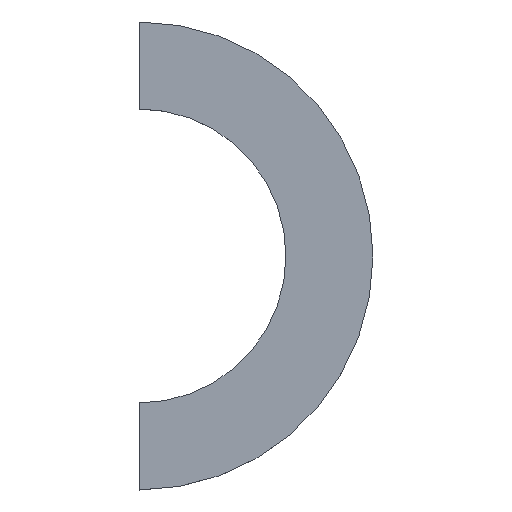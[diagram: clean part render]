
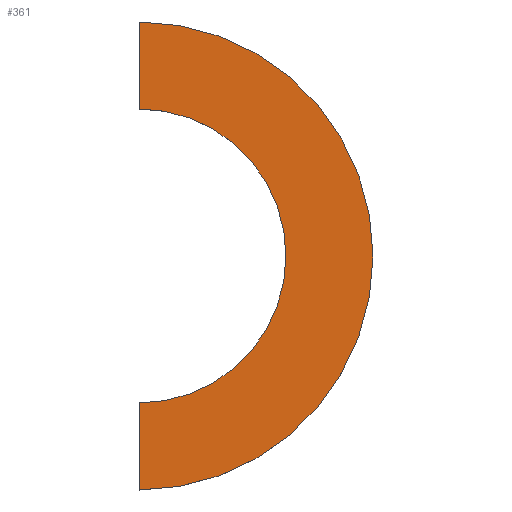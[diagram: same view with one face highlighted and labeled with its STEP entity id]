
A CAD part, top view. The second image highlights one B-rep face of the part: STEP entity #361.
In plain terms, the highlighted planar face has unit normal (0, 0, 1).
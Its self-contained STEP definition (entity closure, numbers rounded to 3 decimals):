
#24 = VERTEX_POINT('',#25);
#25 = CARTESIAN_POINT('',(4.8,0.,9.4));
#32 = CYLINDRICAL_SURFACE('',#33,4.8);
#33 = AXIS2_PLACEMENT_3D('',#34,#35,#36);
#34 = CARTESIAN_POINT('',(0.,0.,9.));
#35 = DIRECTION('',(0.,0.,1.));
#36 = DIRECTION('',(1.,0.,-0.));
#44 = CYLINDRICAL_SURFACE('',#45,4.8);
#45 = AXIS2_PLACEMENT_3D('',#46,#47,#48);
#46 = CARTESIAN_POINT('',(0.,0.,9.));
#47 = DIRECTION('',(0.,0.,1.));
#48 = DIRECTION('',(1.,0.,-0.));
#56 = EDGE_CURVE('',#57,#24,#59,.T.);
#57 = VERTEX_POINT('',#58);
#58 = CARTESIAN_POINT('',(0.,-4.8,9.4));
#59 = SURFACE_CURVE('',#60,(#65,#72),.PCURVE_S1.);
#60 = CIRCLE('',#61,4.8);
#61 = AXIS2_PLACEMENT_3D('',#62,#63,#64);
#62 = CARTESIAN_POINT('',(0.,0.,9.4));
#63 = DIRECTION('',(0.,0.,1.));
#64 = DIRECTION('',(1.,0.,-0.));
#65 = PCURVE('',#32,#66);
#66 = DEFINITIONAL_REPRESENTATION('',(#67),#71);
#67 = LINE('',#68,#69);
#68 = CARTESIAN_POINT('',(0.,0.4));
#69 = VECTOR('',#70,1.);
#70 = DIRECTION('',(1.,0.));
#71 = ( GEOMETRIC_REPRESENTATION_CONTEXT(2) 
PARAMETRIC_REPRESENTATION_CONTEXT() REPRESENTATION_CONTEXT('2D SPACE',''
  ) );
#72 = PCURVE('',#73,#78);
#73 = PLANE('',#74);
#74 = AXIS2_PLACEMENT_3D('',#75,#76,#77);
#75 = CARTESIAN_POINT('',(0.,0.,9.4));
#76 = DIRECTION('',(0.,0.,1.));
#77 = DIRECTION('',(1.,0.,-0.));
#78 = DEFINITIONAL_REPRESENTATION('',(#79),#83);
#79 = CIRCLE('',#80,4.8);
#80 = AXIS2_PLACEMENT_2D('',#81,#82);
#81 = CARTESIAN_POINT('',(0.,0.));
#82 = DIRECTION('',(1.,0.));
#83 = ( GEOMETRIC_REPRESENTATION_CONTEXT(2) 
PARAMETRIC_REPRESENTATION_CONTEXT() REPRESENTATION_CONTEXT('2D SPACE',''
  ) );
#100 = PLANE('',#101);
#101 = AXIS2_PLACEMENT_3D('',#102,#103,#104);
#102 = CARTESIAN_POINT('',(0.,-60.,-70.));
#103 = DIRECTION('',(1.,0.,0.));
#104 = DIRECTION('',(0.,0.,1.));
#141 = EDGE_CURVE('',#24,#142,#144,.T.);
#142 = VERTEX_POINT('',#143);
#143 = CARTESIAN_POINT('',(0.,4.8,9.4));
#144 = SURFACE_CURVE('',#145,(#150,#157),.PCURVE_S1.);
#145 = CIRCLE('',#146,4.8);
#146 = AXIS2_PLACEMENT_3D('',#147,#148,#149);
#147 = CARTESIAN_POINT('',(0.,0.,9.4));
#148 = DIRECTION('',(0.,0.,1.));
#149 = DIRECTION('',(1.,0.,-0.));
#150 = PCURVE('',#44,#151);
#151 = DEFINITIONAL_REPRESENTATION('',(#152),#156);
#152 = LINE('',#153,#154);
#153 = CARTESIAN_POINT('',(0.,0.4));
#154 = VECTOR('',#155,1.);
#155 = DIRECTION('',(1.,0.));
#156 = ( GEOMETRIC_REPRESENTATION_CONTEXT(2) 
PARAMETRIC_REPRESENTATION_CONTEXT() REPRESENTATION_CONTEXT('2D SPACE',''
  ) );
#157 = PCURVE('',#73,#158);
#158 = DEFINITIONAL_REPRESENTATION('',(#159),#163);
#159 = CIRCLE('',#160,4.8);
#160 = AXIS2_PLACEMENT_2D('',#161,#162);
#161 = CARTESIAN_POINT('',(0.,0.));
#162 = DIRECTION('',(1.,0.));
#163 = ( GEOMETRIC_REPRESENTATION_CONTEXT(2) 
PARAMETRIC_REPRESENTATION_CONTEXT() REPRESENTATION_CONTEXT('2D SPACE',''
  ) );
#203 = PLANE('',#204);
#204 = AXIS2_PLACEMENT_3D('',#205,#206,#207);
#205 = CARTESIAN_POINT('',(0.,-60.,-70.));
#206 = DIRECTION('',(1.,0.,0.));
#207 = DIRECTION('',(0.,0.,1.));
#257 = CYLINDRICAL_SURFACE('',#258,3.015);
#258 = AXIS2_PLACEMENT_3D('',#259,#260,#261);
#259 = CARTESIAN_POINT('',(0.,0.,8.99));
#260 = DIRECTION('',(0.,0.,1.));
#261 = DIRECTION('',(1.,0.,-0.));
#286 = CYLINDRICAL_SURFACE('',#287,3.015);
#287 = AXIS2_PLACEMENT_3D('',#288,#289,#290);
#288 = CARTESIAN_POINT('',(0.,0.,8.99));
#289 = DIRECTION('',(0.,0.,1.));
#290 = DIRECTION('',(1.,0.,-0.));
#323 = VERTEX_POINT('',#324);
#324 = CARTESIAN_POINT('',(0.,-3.015,9.4));
#343 = EDGE_CURVE('',#57,#323,#344,.T.);
#344 = SURFACE_CURVE('',#345,(#349,#355),.PCURVE_S1.);
#345 = LINE('',#346,#347);
#346 = CARTESIAN_POINT('',(0.,-30.,9.4));
#347 = VECTOR('',#348,1.);
#348 = DIRECTION('',(0.,1.,0.));
#349 = PCURVE('',#100,#350);
#350 = DEFINITIONAL_REPRESENTATION('',(#351),#354);
#351 = B_SPLINE_CURVE_WITH_KNOTS('',1,(#352,#353),.UNSPECIFIED.,.F.,.F.,
  (2,2),(25.2,34.8),.PIECEWISE_BEZIER_KNOTS.);
#352 = CARTESIAN_POINT('',(79.4,-55.2));
#353 = CARTESIAN_POINT('',(79.4,-64.8));
#354 = ( GEOMETRIC_REPRESENTATION_CONTEXT(2) 
PARAMETRIC_REPRESENTATION_CONTEXT() REPRESENTATION_CONTEXT('2D SPACE',''
  ) );
#355 = PCURVE('',#73,#356);
#356 = DEFINITIONAL_REPRESENTATION('',(#357),#360);
#357 = B_SPLINE_CURVE_WITH_KNOTS('',1,(#358,#359),.UNSPECIFIED.,.F.,.F.,
  (2,2),(25.2,34.8),.PIECEWISE_BEZIER_KNOTS.);
#358 = CARTESIAN_POINT('',(0.,-4.8));
#359 = CARTESIAN_POINT('',(0.,4.8));
#360 = ( GEOMETRIC_REPRESENTATION_CONTEXT(2) 
PARAMETRIC_REPRESENTATION_CONTEXT() REPRESENTATION_CONTEXT('2D SPACE',''
  ) );
#361 = ADVANCED_FACE('',(#362),#73,.T.);
#362 = FACE_BOUND('',#363,.T.);
#363 = EDGE_LOOP('',(#364,#365,#366,#387,#411,#433));
#364 = ORIENTED_EDGE('',*,*,#56,.T.);
#365 = ORIENTED_EDGE('',*,*,#141,.T.);
#366 = ORIENTED_EDGE('',*,*,#367,.F.);
#367 = EDGE_CURVE('',#368,#142,#370,.T.);
#368 = VERTEX_POINT('',#369);
#369 = CARTESIAN_POINT('',(0.,3.015,9.4));
#370 = SURFACE_CURVE('',#371,(#375,#381),.PCURVE_S1.);
#371 = LINE('',#372,#373);
#372 = CARTESIAN_POINT('',(0.,-30.,9.4));
#373 = VECTOR('',#374,1.);
#374 = DIRECTION('',(0.,1.,0.));
#375 = PCURVE('',#73,#376);
#376 = DEFINITIONAL_REPRESENTATION('',(#377),#380);
#377 = B_SPLINE_CURVE_WITH_KNOTS('',1,(#378,#379),.UNSPECIFIED.,.F.,.F.,
  (2,2),(25.2,34.8),.PIECEWISE_BEZIER_KNOTS.);
#378 = CARTESIAN_POINT('',(0.,-4.8));
#379 = CARTESIAN_POINT('',(0.,4.8));
#380 = ( GEOMETRIC_REPRESENTATION_CONTEXT(2) 
PARAMETRIC_REPRESENTATION_CONTEXT() REPRESENTATION_CONTEXT('2D SPACE',''
  ) );
#381 = PCURVE('',#203,#382);
#382 = DEFINITIONAL_REPRESENTATION('',(#383),#386);
#383 = B_SPLINE_CURVE_WITH_KNOTS('',1,(#384,#385),.UNSPECIFIED.,.F.,.F.,
  (2,2),(25.2,34.8),.PIECEWISE_BEZIER_KNOTS.);
#384 = CARTESIAN_POINT('',(79.4,-55.2));
#385 = CARTESIAN_POINT('',(79.4,-64.8));
#386 = ( GEOMETRIC_REPRESENTATION_CONTEXT(2) 
PARAMETRIC_REPRESENTATION_CONTEXT() REPRESENTATION_CONTEXT('2D SPACE',''
  ) );
#387 = ORIENTED_EDGE('',*,*,#388,.F.);
#388 = EDGE_CURVE('',#389,#368,#391,.T.);
#389 = VERTEX_POINT('',#390);
#390 = CARTESIAN_POINT('',(3.015,0.,9.4));
#391 = SURFACE_CURVE('',#392,(#397,#404),.PCURVE_S1.);
#392 = CIRCLE('',#393,3.015);
#393 = AXIS2_PLACEMENT_3D('',#394,#395,#396);
#394 = CARTESIAN_POINT('',(0.,0.,9.4));
#395 = DIRECTION('',(0.,0.,1.));
#396 = DIRECTION('',(1.,0.,-0.));
#397 = PCURVE('',#73,#398);
#398 = DEFINITIONAL_REPRESENTATION('',(#399),#403);
#399 = CIRCLE('',#400,3.015);
#400 = AXIS2_PLACEMENT_2D('',#401,#402);
#401 = CARTESIAN_POINT('',(0.,0.));
#402 = DIRECTION('',(1.,0.));
#403 = ( GEOMETRIC_REPRESENTATION_CONTEXT(2) 
PARAMETRIC_REPRESENTATION_CONTEXT() REPRESENTATION_CONTEXT('2D SPACE',''
  ) );
#404 = PCURVE('',#257,#405);
#405 = DEFINITIONAL_REPRESENTATION('',(#406),#410);
#406 = LINE('',#407,#408);
#407 = CARTESIAN_POINT('',(0.,0.41));
#408 = VECTOR('',#409,1.);
#409 = DIRECTION('',(1.,0.));
#410 = ( GEOMETRIC_REPRESENTATION_CONTEXT(2) 
PARAMETRIC_REPRESENTATION_CONTEXT() REPRESENTATION_CONTEXT('2D SPACE',''
  ) );
#411 = ORIENTED_EDGE('',*,*,#412,.F.);
#412 = EDGE_CURVE('',#323,#389,#413,.T.);
#413 = SURFACE_CURVE('',#414,(#419,#426),.PCURVE_S1.);
#414 = CIRCLE('',#415,3.015);
#415 = AXIS2_PLACEMENT_3D('',#416,#417,#418);
#416 = CARTESIAN_POINT('',(0.,0.,9.4));
#417 = DIRECTION('',(0.,0.,1.));
#418 = DIRECTION('',(1.,0.,-0.));
#419 = PCURVE('',#73,#420);
#420 = DEFINITIONAL_REPRESENTATION('',(#421),#425);
#421 = CIRCLE('',#422,3.015);
#422 = AXIS2_PLACEMENT_2D('',#423,#424);
#423 = CARTESIAN_POINT('',(0.,0.));
#424 = DIRECTION('',(1.,0.));
#425 = ( GEOMETRIC_REPRESENTATION_CONTEXT(2) 
PARAMETRIC_REPRESENTATION_CONTEXT() REPRESENTATION_CONTEXT('2D SPACE',''
  ) );
#426 = PCURVE('',#286,#427);
#427 = DEFINITIONAL_REPRESENTATION('',(#428),#432);
#428 = LINE('',#429,#430);
#429 = CARTESIAN_POINT('',(0.,0.41));
#430 = VECTOR('',#431,1.);
#431 = DIRECTION('',(1.,0.));
#432 = ( GEOMETRIC_REPRESENTATION_CONTEXT(2) 
PARAMETRIC_REPRESENTATION_CONTEXT() REPRESENTATION_CONTEXT('2D SPACE',''
  ) );
#433 = ORIENTED_EDGE('',*,*,#343,.F.);
